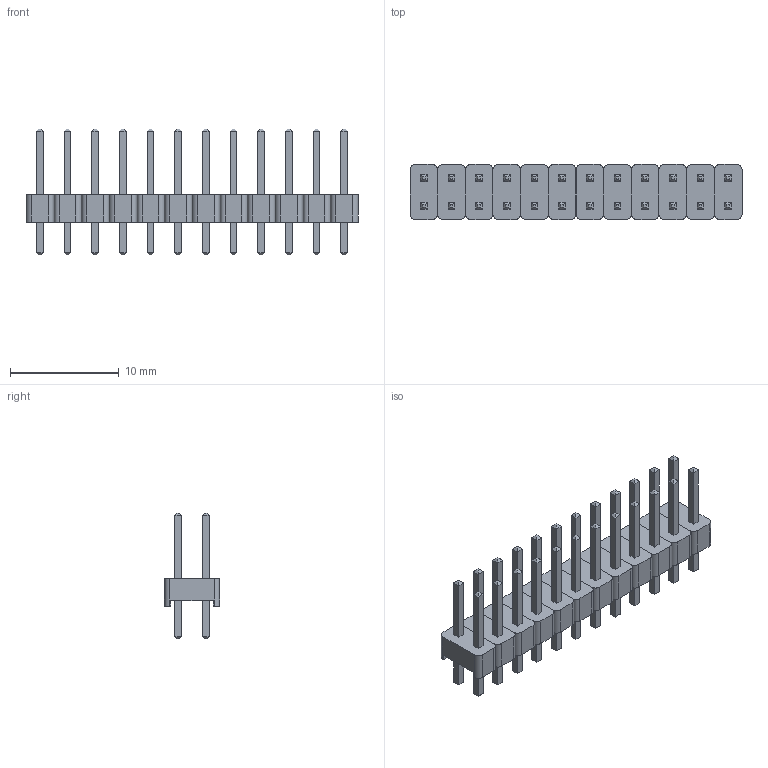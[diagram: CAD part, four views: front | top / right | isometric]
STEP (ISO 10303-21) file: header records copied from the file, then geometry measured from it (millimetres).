
FILE_DESCRIPTION(('FreeCAD Model'),'2;1');
FILE_NAME('Open CASCADE Shape Model','2022-04-06T15:58:47',( 'Engenharia Metaltex'),('Metaltex'), 'Open CASCADE STEP processor 7.5','FreeCAD','Unknown');
FILE_SCHEMA(('AUTOMOTIVE_DESIGN { 1 0 10303 214 1 1 1 1 }'));
Length unit declared in the file: millimetre
Products named in the file (49): BPDC; 12; Base011; Pino023; Pino024; 1; Base; Pino1; Pino2; 2; Base001; Pino003; Pino004; 3; Base002; Pino006; Pino005; 4; Base003; Pino008; Pino007; 5; Base004; Pino009; Pino010; 6; Base005; Pino012; Pino011; 7; Base006; Pino013; Pino014; 8; Base007; Pino015; Pino016; 9; Base008; Pino017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
Assembly tree (48 placements, depth 3):
  BPDC
    12
      Base011
      Pino023
      Pino024
    1
      Base
      Pino1
      Pino2
    2
      Base001
      Pino003
      Pino004
    3
      Base002
      Pino006
      Pino005
    4
      Base003
      Pino008
      Pino007
    5
      Base004
      Pino009
      Pino010
    6
      Base005
      Pino012
      Pino011
    7
      Base006
      Pino013
      Pino014
    8
      Base007
      Pino015
      Pino016
    9
      Base008
      Pino017
      Pino018
    10
      Base009
      Pino019
      Pino020
    11
      Base010
      Pino021
      Pino022
Bounding box: 30.48 x 5.08 x 11.54 mm (x, y, z)
Volume: 419.1 mm3; surface area: 1543.6 mm2
Topology: 36 solids, 36 shells, 600 faces, 1392 edges, 864 vertices
Faces by surface type: plane 552, cylinder 48
Entity records: 36019 total; most frequent: CARTESIAN_POINT 5977, DIRECTION 5522, LINE 3984, VECTOR 3984, ORIENTED_EDGE 2784, PCURVE 2784, DEFINITIONAL_REPRESENTATION 2784, EDGE_CURVE 1392
